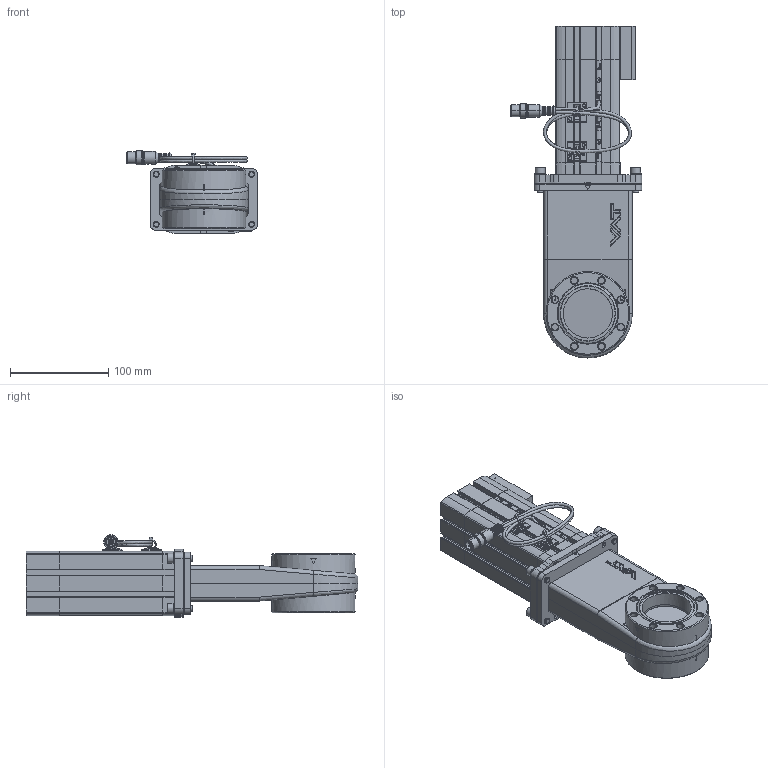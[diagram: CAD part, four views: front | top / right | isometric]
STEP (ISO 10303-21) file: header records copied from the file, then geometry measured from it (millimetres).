
FILE_DESCRIPTION(/* description */ (''),/* implementation_level */ '2;1');
FILE_NAME(/* name */ '1135555635_203.stp',/* time_stamp */ '2022-07-01T15:50:39+02:00',/* author */ (''),/* organization */ (''),/* preprocessor_version */ 'ST-DEVELOPER v18.1',/* originating_system */ 'SIEMENS PLM Software NX 1973',/* authorisation */ '');
FILE_SCHEMA (('AP203_CONFIGURATION_CONTROLLED_3D_DESIGN_OF_MECHANICAL_PARTS_AND_ASSEMBLIES_MIM_LF { 1 0 10303 403 2 1 2}'));
Length unit declared in the file: millimetre
Products named in the file (24): 350432.7_34992ID; 350432.7_34978ID; 350540.2_34966ID; 408099; 990068; 487660; 411636_35052ID; 1041281; 343001.1; 1033982; 1133560; 716165; 716165_35002ID; 1085547; 984070; 218189; n-6134-408; 351709.1; 350482.2; 1081830_NX-ARRAGMNTDN050/63, Standard v3 ; 1034004_NX-ARRAGMNTOPEN ohne SV; 351438.6; 716133; 1161723
Assembly tree (34 placements, depth 4):
  1161723
    350482.2
    351709.1
    n-6134-408  x4
    218189  x4
    716133
      351438.6
        350540.2_34966ID
        350432.7_34978ID
        350432.7_34992ID
      716165_35002ID
      716165
    1034004_NX-ARRAGMNTOPEN ohne SV
      1133560
      1033982
      343001.1  x2
      1041281
    1081830_NX-ARRAGMNTDN050/63, Standard v3 
      411636_35052ID
      487660  x2
      990068
      408099  x2
    984070  x2
    1085547  x2
Bounding box: 133.65 x 337.35 x 83.9 mm (x, y, z)
Volume: 949093.5 mm3; surface area: 252664.5 mm2
Topology: 45 solids, 45 shells, 2604 faces, 6606 edges, 4094 vertices
Faces by surface type: plane 1184, cylinder 736, bspline 292, cone 214, torus 106, sphere 64, revolution 8
Full cylindrical faces by diameter (mm): 2.46 x2, 2.5 x2, 2.9 x2, 3 x4, 3.4 x2, 4 x4, 4.5 x2, 4.96 x4, 5 x8, 5.2 x2, 5.22 x4, 5.5 x2, 6 x8, 6.4 x4, 6.5 x4, 6.8 x16, 10 x4, 11 x4, 25.345 x1, 50.1 x2, 50.3 x4, 61.8 x2, 85 x2
Entity records: 74774 total; most frequent: CARTESIAN_POINT 22614, ORIENTED_EDGE 10158, DIRECTION 9498, EDGE_CURVE 5079, AXIS2_PLACEMENT_3D 3394, VERTEX_POINT 3305, LINE 2706, VECTOR 2706
